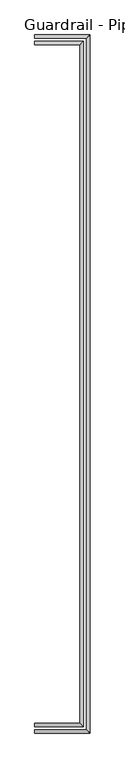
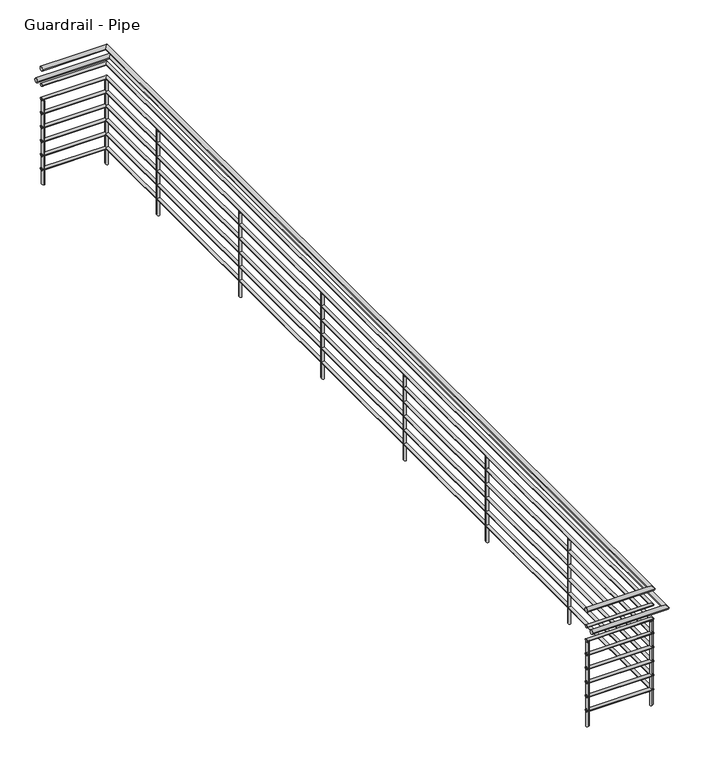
"""IFC4 building model written with IfcOpenShell, lengths in millimetres: railing geometry, Guardrail - Pipe."""

from ifc_helpers import new_model, si_unit, frame, origin, place, context, project, spatial, circle_curve, ellipse_curve, source, transform, mapped, element, save
from ifc_brep_helpers import plane_surface, cylinder_surface, advanced_brep


def guardrail_pipe_35cc9563(model_context):
    return source(origin(), model_context, "Body", "AdvancedBrep", [
        advanced_brep(
        [(13389.3313551, 21840.75, 4705.35), (13389.3313551, 21878.85, 4705.35), (13967.1813551, 21840.75, 4705.35), (13929.0813551, 21878.85, 4705.35), (13967.1813551, 29956.05, 4705.35), (13929.0813551, 29917.95, 4705.35), (13389.3313551, 29956.05, 4705.35), (13389.3313551, 29917.95, 4705.35)],
        [
            (0, 1, circle_curve(frame((13389.3313551, 21859.8, 4705.35), z_axis=(-1.0, 0.0, 0.0), x_axis=(0.0, 1.0, 0.0)), 19.05)),
            (1, 0, circle_curve(frame((13389.3313551, 21859.8, 4705.35), z_axis=(-1.0, 0.0, 0.0), x_axis=(0.0, 1.0, 0.0)), 19.05)),
            (0, 2),
            (2, 3, ellipse_curve(frame((13948.1313551, 21859.8, 4705.35), z_axis=(-0.7071067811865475, -0.7071067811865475, 0.0), x_axis=(-0.7071067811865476, 0.7071067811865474, 0.0)), 26.9407684, 19.05)),
            (3, 1),
            (3, 2, ellipse_curve(frame((13948.1313551, 21859.8, 4705.35), z_axis=(-0.7071067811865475, -0.7071067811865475, 0.0), x_axis=(-0.7071067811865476, 0.7071067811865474, 0.0)), 26.9407684, 19.05)),
            (2, 4),
            (4, 5, ellipse_curve(frame((13948.1313551, 29937.0, 4705.35), z_axis=(0.7071067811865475, -0.7071067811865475, 0.0), x_axis=(-0.7071067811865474, -0.7071067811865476, 0.0)), 26.9407684, 19.05)),
            (5, 3),
            (5, 4, ellipse_curve(frame((13948.1313551, 29937.0, 4705.35), z_axis=(0.7071067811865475, -0.7071067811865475, 0.0), x_axis=(-0.7071067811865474, -0.7071067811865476, 0.0)), 26.9407684, 19.05)),
            (6, 7, circle_curve(frame((13389.3313551, 29937.0, 4705.35), z_axis=(-1.0, 0.0, 0.0), x_axis=(0.0, -1.0, 0.0)), 19.05)),
            (7, 6, circle_curve(frame((13389.3313551, 29937.0, 4705.35), z_axis=(-1.0, 0.0, 0.0), x_axis=(0.0, -1.0, 0.0)), 19.05)),
            (4, 6),
            (7, 5),
        ],
        [
            plane_surface(frame((13389.3313551, 21859.8, 4724.4), z_axis=(-1.0, 0.0, 0.0), x_axis=(0.0, 1.0, 0.0))),
            cylinder_surface(frame((13389.3313551, 21859.8, 4705.35), z_axis=(-1.0, 0.0, 0.0), x_axis=(0.0, 1.0, 0.0)), 19.05),
            cylinder_surface(frame((13948.1313551, 21859.8, 4705.35), z_axis=(0.0, -1.0, 0.0), x_axis=(-1.0, 0.0, 0.0)), 19.05),
            plane_surface(frame((13389.3313551, 29937.0, 4724.4), z_axis=(-1.0, 0.0, 0.0), x_axis=(0.0, -1.0, 0.0))),
            cylinder_surface(frame((13948.1313551, 29937.0, 4705.35), z_axis=(1.0, 0.0, 0.0), x_axis=(0.0, -1.0, 0.0)), 19.05),
        ],
        [
            (0, [[1, 2]]),
            (1, [[-1, 3, 4, 5]]),
            (1, [[-2, -5, 6, -3]]),
            (2, [[-4, 7, 8, 9]]),
            (2, [[-6, -9, 10, -7]]),
            (3, [[11, 12]]),
            (4, [[-8, 13, -12, 14]]),
            (4, [[-10, -14, -11, -13]]),
        ],
    ),
        advanced_brep(
        [(13389.3313551, 21847.1, 4559.3), (13389.3313551, 21872.5, 4559.3), (13960.8313551, 21847.1, 4559.3), (13935.4313551, 21872.5, 4559.3), (13960.8313551, 29949.7, 4559.3), (13935.4313551, 29924.3, 4559.3), (13389.3313551, 29949.7, 4559.3), (13389.3313551, 29924.3, 4559.3)],
        [
            (0, 1, circle_curve(frame((13389.3313551, 21859.8, 4559.3), z_axis=(-1.0, 0.0, 0.0), x_axis=(0.0, 1.0, 0.0)), 12.7)),
            (1, 0, circle_curve(frame((13389.3313551, 21859.8, 4559.3), z_axis=(-1.0, 0.0, 0.0), x_axis=(0.0, 1.0, 0.0)), 12.7)),
            (0, 2),
            (2, 3, ellipse_curve(frame((13948.1313551, 21859.8, 4559.3), z_axis=(-0.7071067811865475, -0.7071067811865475, 0.0), x_axis=(-0.7071067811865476, 0.7071067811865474, 0.0)), 17.9605122, 12.7)),
            (3, 1),
            (3, 2, ellipse_curve(frame((13948.1313551, 21859.8, 4559.3), z_axis=(-0.7071067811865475, -0.7071067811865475, 0.0), x_axis=(-0.7071067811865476, 0.7071067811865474, 0.0)), 17.9605122, 12.7)),
            (2, 4),
            (4, 5, ellipse_curve(frame((13948.1313551, 29937.0, 4559.3), z_axis=(0.7071067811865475, -0.7071067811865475, 0.0), x_axis=(-0.7071067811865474, -0.7071067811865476, 0.0)), 17.9605122, 12.7)),
            (5, 3),
            (5, 4, ellipse_curve(frame((13948.1313551, 29937.0, 4559.3), z_axis=(0.7071067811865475, -0.7071067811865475, 0.0), x_axis=(-0.7071067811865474, -0.7071067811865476, 0.0)), 17.9605122, 12.7)),
            (6, 7, circle_curve(frame((13389.3313551, 29937.0, 4559.3), z_axis=(-1.0, 0.0, 0.0), x_axis=(0.0, -1.0, 0.0)), 12.7)),
            (7, 6, circle_curve(frame((13389.3313551, 29937.0, 4559.3), z_axis=(-1.0, 0.0, 0.0), x_axis=(0.0, -1.0, 0.0)), 12.7)),
            (4, 6),
            (7, 5),
        ],
        [
            plane_surface(frame((13389.3313551, 21859.8, 4572.0), z_axis=(-1.0, 0.0, 0.0), x_axis=(0.0, 1.0, 0.0))),
            cylinder_surface(frame((13389.3313551, 21859.8, 4559.3), z_axis=(-1.0, 0.0, 0.0), x_axis=(0.0, 1.0, 0.0)), 12.7),
            cylinder_surface(frame((13948.1313551, 21859.8, 4559.3), z_axis=(0.0, -1.0, 0.0), x_axis=(-1.0, 0.0, 0.0)), 12.7),
            plane_surface(frame((13389.3313551, 29937.0, 4572.0), z_axis=(-1.0, 0.0, 0.0), x_axis=(0.0, -1.0, 0.0))),
            cylinder_surface(frame((13948.1313551, 29937.0, 4559.3), z_axis=(1.0, 0.0, 0.0), x_axis=(0.0, -1.0, 0.0)), 12.7),
        ],
        [
            (0, [[1, 2]]),
            (1, [[-1, 3, 4, 5]]),
            (1, [[-2, -5, 6, -3]]),
            (2, [[-4, 7, 8, 9]]),
            (2, [[-6, -9, 10, -7]]),
            (3, [[11, 12]]),
            (4, [[-8, 13, -12, 14]]),
            (4, [[-10, -14, -11, -13]]),
        ],
    ),
        advanced_brep(
        [(13389.3313551, 21764.55, 4552.95), (13389.3313551, 21802.65, 4552.95), (14043.3813551, 21764.55, 4552.95), (14005.2813551, 21802.65, 4552.95), (14043.3813551, 30032.25, 4552.95), (14005.2813551, 29994.15, 4552.95), (13389.3313551, 30032.25, 4552.95), (13389.3313551, 29994.15, 4552.95)],
        [
            (0, 1, circle_curve(frame((13389.3313551, 21783.6, 4552.95), z_axis=(-1.0, 0.0, 0.0), x_axis=(0.0, 1.0, 0.0)), 19.05)),
            (1, 0, circle_curve(frame((13389.3313551, 21783.6, 4552.95), z_axis=(-1.0, 0.0, 0.0), x_axis=(0.0, 1.0, 0.0)), 19.05)),
            (0, 2),
            (2, 3, ellipse_curve(frame((14024.3313551, 21783.6, 4552.95), z_axis=(-0.7071067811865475, -0.7071067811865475, 0.0), x_axis=(-0.7071067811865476, 0.7071067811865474, 0.0)), 26.9407684, 19.05)),
            (3, 1),
            (3, 2, ellipse_curve(frame((14024.3313551, 21783.6, 4552.95), z_axis=(-0.7071067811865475, -0.7071067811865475, 0.0), x_axis=(-0.7071067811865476, 0.7071067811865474, 0.0)), 26.9407684, 19.05)),
            (2, 4),
            (4, 5, ellipse_curve(frame((14024.3313551, 30013.2, 4552.95), z_axis=(0.7071067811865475, -0.7071067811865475, 0.0), x_axis=(-0.7071067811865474, -0.7071067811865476, 0.0)), 26.9407684, 19.05)),
            (5, 3),
            (5, 4, ellipse_curve(frame((14024.3313551, 30013.2, 4552.95), z_axis=(0.7071067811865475, -0.7071067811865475, 0.0), x_axis=(-0.7071067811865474, -0.7071067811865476, 0.0)), 26.9407684, 19.05)),
            (6, 7, circle_curve(frame((13389.3313551, 30013.2, 4552.95), z_axis=(-1.0, 0.0, 0.0), x_axis=(0.0, -1.0, 0.0)), 19.05)),
            (7, 6, circle_curve(frame((13389.3313551, 30013.2, 4552.95), z_axis=(-1.0, 0.0, 0.0), x_axis=(0.0, -1.0, 0.0)), 19.05)),
            (4, 6),
            (7, 5),
        ],
        [
            plane_surface(frame((13389.3313551, 21783.6, 4572.0), z_axis=(-1.0, 0.0, 0.0), x_axis=(0.0, 1.0, 0.0))),
            cylinder_surface(frame((13389.3313551, 21783.6, 4552.95), z_axis=(-1.0, 0.0, 0.0), x_axis=(0.0, 1.0, 0.0)), 19.05),
            cylinder_surface(frame((14024.3313551, 21783.6, 4552.95), z_axis=(0.0, -1.0, 0.0), x_axis=(-1.0, 0.0, 0.0)), 19.05),
            plane_surface(frame((13389.3313551, 30013.2, 4572.0), z_axis=(-1.0, 0.0, 0.0), x_axis=(0.0, -1.0, 0.0))),
            cylinder_surface(frame((14024.3313551, 30013.2, 4552.95), z_axis=(1.0, 0.0, 0.0), x_axis=(0.0, -1.0, 0.0)), 19.05),
        ],
        [
            (0, [[1, 2]]),
            (1, [[-1, 3, 4, 5]]),
            (1, [[-2, -5, 6, -3]]),
            (2, [[-4, 7, 8, 9]]),
            (2, [[-6, -9, 10, -7]]),
            (3, [[11, 12]]),
            (4, [[-8, 13, -12, 14]]),
            (4, [[-10, -14, -11, -13]]),
        ],
    ),
        advanced_brep(
        [(13389.3313551, 21847.1, 4432.3), (13389.3313551, 21872.5, 4432.3), (13960.8313551, 21847.1, 4432.3), (13935.4313551, 21872.5, 4432.3), (13960.8313551, 29949.7, 4432.3), (13935.4313551, 29924.3, 4432.3), (13389.3313551, 29949.7, 4432.3), (13389.3313551, 29924.3, 4432.3)],
        [
            (0, 1, circle_curve(frame((13389.3313551, 21859.8, 4432.3), z_axis=(-1.0, 0.0, 0.0), x_axis=(0.0, 1.0, 0.0)), 12.7)),
            (1, 0, circle_curve(frame((13389.3313551, 21859.8, 4432.3), z_axis=(-1.0, 0.0, 0.0), x_axis=(0.0, 1.0, 0.0)), 12.7)),
            (0, 2),
            (2, 3, ellipse_curve(frame((13948.1313551, 21859.8, 4432.3), z_axis=(-0.7071067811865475, -0.7071067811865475, 0.0), x_axis=(-0.7071067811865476, 0.7071067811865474, 0.0)), 17.9605122, 12.7)),
            (3, 1),
            (3, 2, ellipse_curve(frame((13948.1313551, 21859.8, 4432.3), z_axis=(-0.7071067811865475, -0.7071067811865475, 0.0), x_axis=(-0.7071067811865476, 0.7071067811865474, 0.0)), 17.9605122, 12.7)),
            (2, 4),
            (4, 5, ellipse_curve(frame((13948.1313551, 29937.0, 4432.3), z_axis=(0.7071067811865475, -0.7071067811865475, 0.0), x_axis=(-0.7071067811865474, -0.7071067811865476, 0.0)), 17.9605122, 12.7)),
            (5, 3),
            (5, 4, ellipse_curve(frame((13948.1313551, 29937.0, 4432.3), z_axis=(0.7071067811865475, -0.7071067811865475, 0.0), x_axis=(-0.7071067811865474, -0.7071067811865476, 0.0)), 17.9605122, 12.7)),
            (6, 7, circle_curve(frame((13389.3313551, 29937.0, 4432.3), z_axis=(-1.0, 0.0, 0.0), x_axis=(0.0, -1.0, 0.0)), 12.7)),
            (7, 6, circle_curve(frame((13389.3313551, 29937.0, 4432.3), z_axis=(-1.0, 0.0, 0.0), x_axis=(0.0, -1.0, 0.0)), 12.7)),
            (4, 6),
            (7, 5),
        ],
        [
            plane_surface(frame((13389.3313551, 21859.8, 4445.0), z_axis=(-1.0, 0.0, 0.0), x_axis=(0.0, 1.0, 0.0))),
            cylinder_surface(frame((13389.3313551, 21859.8, 4432.3), z_axis=(-1.0, 0.0, 0.0), x_axis=(0.0, 1.0, 0.0)), 12.7),
            cylinder_surface(frame((13948.1313551, 21859.8, 4432.3), z_axis=(0.0, -1.0, 0.0), x_axis=(-1.0, 0.0, 0.0)), 12.7),
            plane_surface(frame((13389.3313551, 29937.0, 4445.0), z_axis=(-1.0, 0.0, 0.0), x_axis=(0.0, -1.0, 0.0))),
            cylinder_surface(frame((13948.1313551, 29937.0, 4432.3), z_axis=(1.0, 0.0, 0.0), x_axis=(0.0, -1.0, 0.0)), 12.7),
        ],
        [
            (0, [[1, 2]]),
            (1, [[-1, 3, 4, 5]]),
            (1, [[-2, -5, 6, -3]]),
            (2, [[-4, 7, 8, 9]]),
            (2, [[-6, -9, 10, -7]]),
            (3, [[11, 12]]),
            (4, [[-8, 13, -12, 14]]),
            (4, [[-10, -14, -11, -13]]),
        ],
    ),
        advanced_brep(
        [(13389.3313551, 21847.1, 4305.3), (13389.3313551, 21872.5, 4305.3), (13960.8313551, 21847.1, 4305.3), (13935.4313551, 21872.5, 4305.3), (13960.8313551, 29949.7, 4305.3), (13935.4313551, 29924.3, 4305.3), (13389.3313551, 29949.7, 4305.3), (13389.3313551, 29924.3, 4305.3)],
        [
            (0, 1, circle_curve(frame((13389.3313551, 21859.8, 4305.3), z_axis=(-1.0, 0.0, 0.0), x_axis=(0.0, 1.0, 0.0)), 12.7)),
            (1, 0, circle_curve(frame((13389.3313551, 21859.8, 4305.3), z_axis=(-1.0, 0.0, 0.0), x_axis=(0.0, 1.0, 0.0)), 12.7)),
            (0, 2),
            (2, 3, ellipse_curve(frame((13948.1313551, 21859.8, 4305.3), z_axis=(-0.7071067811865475, -0.7071067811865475, 0.0), x_axis=(-0.7071067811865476, 0.7071067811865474, 0.0)), 17.9605122, 12.7)),
            (3, 1),
            (3, 2, ellipse_curve(frame((13948.1313551, 21859.8, 4305.3), z_axis=(-0.7071067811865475, -0.7071067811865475, 0.0), x_axis=(-0.7071067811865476, 0.7071067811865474, 0.0)), 17.9605122, 12.7)),
            (2, 4),
            (4, 5, ellipse_curve(frame((13948.1313551, 29937.0, 4305.3), z_axis=(0.7071067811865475, -0.7071067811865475, 0.0), x_axis=(-0.7071067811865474, -0.7071067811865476, 0.0)), 17.9605122, 12.7)),
            (5, 3),
            (5, 4, ellipse_curve(frame((13948.1313551, 29937.0, 4305.3), z_axis=(0.7071067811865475, -0.7071067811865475, 0.0), x_axis=(-0.7071067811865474, -0.7071067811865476, 0.0)), 17.9605122, 12.7)),
            (6, 7, circle_curve(frame((13389.3313551, 29937.0, 4305.3), z_axis=(-1.0, 0.0, 0.0), x_axis=(0.0, -1.0, 0.0)), 12.7)),
            (7, 6, circle_curve(frame((13389.3313551, 29937.0, 4305.3), z_axis=(-1.0, 0.0, 0.0), x_axis=(0.0, -1.0, 0.0)), 12.7)),
            (4, 6),
            (7, 5),
        ],
        [
            plane_surface(frame((13389.3313551, 21859.8, 4318.0), z_axis=(-1.0, 0.0, 0.0), x_axis=(0.0, 1.0, 0.0))),
            cylinder_surface(frame((13389.3313551, 21859.8, 4305.3), z_axis=(-1.0, 0.0, 0.0), x_axis=(0.0, 1.0, 0.0)), 12.7),
            cylinder_surface(frame((13948.1313551, 21859.8, 4305.3), z_axis=(0.0, -1.0, 0.0), x_axis=(-1.0, 0.0, 0.0)), 12.7),
            plane_surface(frame((13389.3313551, 29937.0, 4318.0), z_axis=(-1.0, 0.0, 0.0), x_axis=(0.0, -1.0, 0.0))),
            cylinder_surface(frame((13948.1313551, 29937.0, 4305.3), z_axis=(1.0, 0.0, 0.0), x_axis=(0.0, -1.0, 0.0)), 12.7),
        ],
        [
            (0, [[1, 2]]),
            (1, [[-1, 3, 4, 5]]),
            (1, [[-2, -5, 6, -3]]),
            (2, [[-4, 7, 8, 9]]),
            (2, [[-6, -9, 10, -7]]),
            (3, [[11, 12]]),
            (4, [[-8, 13, -12, 14]]),
            (4, [[-10, -14, -11, -13]]),
        ],
    ),
        advanced_brep(
        [(13389.3313551, 21847.1, 4178.3), (13389.3313551, 21872.5, 4178.3), (13960.8313551, 21847.1, 4178.3), (13935.4313551, 21872.5, 4178.3), (13960.8313551, 29949.7, 4178.3), (13935.4313551, 29924.3, 4178.3), (13389.3313551, 29949.7, 4178.3), (13389.3313551, 29924.3, 4178.3)],
        [
            (0, 1, circle_curve(frame((13389.3313551, 21859.8, 4178.3), z_axis=(-1.0, 0.0, 0.0), x_axis=(0.0, 1.0, 0.0)), 12.7)),
            (1, 0, circle_curve(frame((13389.3313551, 21859.8, 4178.3), z_axis=(-1.0, 0.0, 0.0), x_axis=(0.0, 1.0, 0.0)), 12.7)),
            (0, 2),
            (2, 3, ellipse_curve(frame((13948.1313551, 21859.8, 4178.3), z_axis=(-0.7071067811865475, -0.7071067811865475, 0.0), x_axis=(-0.7071067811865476, 0.7071067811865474, 0.0)), 17.9605122, 12.7)),
            (3, 1),
            (3, 2, ellipse_curve(frame((13948.1313551, 21859.8, 4178.3), z_axis=(-0.7071067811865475, -0.7071067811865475, 0.0), x_axis=(-0.7071067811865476, 0.7071067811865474, 0.0)), 17.9605122, 12.7)),
            (2, 4),
            (4, 5, ellipse_curve(frame((13948.1313551, 29937.0, 4178.3), z_axis=(0.7071067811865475, -0.7071067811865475, 0.0), x_axis=(-0.7071067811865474, -0.7071067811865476, 0.0)), 17.9605122, 12.7)),
            (5, 3),
            (5, 4, ellipse_curve(frame((13948.1313551, 29937.0, 4178.3), z_axis=(0.7071067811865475, -0.7071067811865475, 0.0), x_axis=(-0.7071067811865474, -0.7071067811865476, 0.0)), 17.9605122, 12.7)),
            (6, 7, circle_curve(frame((13389.3313551, 29937.0, 4178.3), z_axis=(-1.0, 0.0, 0.0), x_axis=(0.0, -1.0, 0.0)), 12.7)),
            (7, 6, circle_curve(frame((13389.3313551, 29937.0, 4178.3), z_axis=(-1.0, 0.0, 0.0), x_axis=(0.0, -1.0, 0.0)), 12.7)),
            (4, 6),
            (7, 5),
        ],
        [
            plane_surface(frame((13389.3313551, 21859.8, 4191.0), z_axis=(-1.0, 0.0, 0.0), x_axis=(0.0, 1.0, 0.0))),
            cylinder_surface(frame((13389.3313551, 21859.8, 4178.3), z_axis=(-1.0, 0.0, 0.0), x_axis=(0.0, 1.0, 0.0)), 12.7),
            cylinder_surface(frame((13948.1313551, 21859.8, 4178.3), z_axis=(0.0, -1.0, 0.0), x_axis=(-1.0, 0.0, 0.0)), 12.7),
            plane_surface(frame((13389.3313551, 29937.0, 4191.0), z_axis=(-1.0, 0.0, 0.0), x_axis=(0.0, -1.0, 0.0))),
            cylinder_surface(frame((13948.1313551, 29937.0, 4178.3), z_axis=(1.0, 0.0, 0.0), x_axis=(0.0, -1.0, 0.0)), 12.7),
        ],
        [
            (0, [[1, 2]]),
            (1, [[-1, 3, 4, 5]]),
            (1, [[-2, -5, 6, -3]]),
            (2, [[-4, 7, 8, 9]]),
            (2, [[-6, -9, 10, -7]]),
            (3, [[11, 12]]),
            (4, [[-8, 13, -12, 14]]),
            (4, [[-10, -14, -11, -13]]),
        ],
    ),
        advanced_brep(
        [(13389.3313551, 21847.1, 4051.3), (13389.3313551, 21872.5, 4051.3), (13960.8313551, 21847.1, 4051.3), (13935.4313551, 21872.5, 4051.3), (13960.8313551, 29949.7, 4051.3), (13935.4313551, 29924.3, 4051.3), (13389.3313551, 29949.7, 4051.3), (13389.3313551, 29924.3, 4051.3)],
        [
            (0, 1, circle_curve(frame((13389.3313551, 21859.8, 4051.3), z_axis=(-1.0, 0.0, 0.0), x_axis=(0.0, 1.0, 0.0)), 12.7)),
            (1, 0, circle_curve(frame((13389.3313551, 21859.8, 4051.3), z_axis=(-1.0, 0.0, 0.0), x_axis=(0.0, 1.0, 0.0)), 12.7)),
            (0, 2),
            (2, 3, ellipse_curve(frame((13948.1313551, 21859.8, 4051.3), z_axis=(-0.7071067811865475, -0.7071067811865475, 0.0), x_axis=(-0.7071067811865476, 0.7071067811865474, 0.0)), 17.9605122, 12.7)),
            (3, 1),
            (3, 2, ellipse_curve(frame((13948.1313551, 21859.8, 4051.3), z_axis=(-0.7071067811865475, -0.7071067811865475, 0.0), x_axis=(-0.7071067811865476, 0.7071067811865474, 0.0)), 17.9605122, 12.7)),
            (2, 4),
            (4, 5, ellipse_curve(frame((13948.1313551, 29937.0, 4051.3), z_axis=(0.7071067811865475, -0.7071067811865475, 0.0), x_axis=(-0.7071067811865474, -0.7071067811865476, 0.0)), 17.9605122, 12.7)),
            (5, 3),
            (5, 4, ellipse_curve(frame((13948.1313551, 29937.0, 4051.3), z_axis=(0.7071067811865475, -0.7071067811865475, 0.0), x_axis=(-0.7071067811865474, -0.7071067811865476, 0.0)), 17.9605122, 12.7)),
            (6, 7, circle_curve(frame((13389.3313551, 29937.0, 4051.3), z_axis=(-1.0, 0.0, 0.0), x_axis=(0.0, -1.0, 0.0)), 12.7)),
            (7, 6, circle_curve(frame((13389.3313551, 29937.0, 4051.3), z_axis=(-1.0, 0.0, 0.0), x_axis=(0.0, -1.0, 0.0)), 12.7)),
            (4, 6),
            (7, 5),
        ],
        [
            plane_surface(frame((13389.3313551, 21859.8, 4064.0), z_axis=(-1.0, 0.0, 0.0), x_axis=(0.0, 1.0, 0.0))),
            cylinder_surface(frame((13389.3313551, 21859.8, 4051.3), z_axis=(-1.0, 0.0, 0.0), x_axis=(0.0, 1.0, 0.0)), 12.7),
            cylinder_surface(frame((13948.1313551, 21859.8, 4051.3), z_axis=(0.0, -1.0, 0.0), x_axis=(-1.0, 0.0, 0.0)), 12.7),
            plane_surface(frame((13389.3313551, 29937.0, 4064.0), z_axis=(-1.0, 0.0, 0.0), x_axis=(0.0, -1.0, 0.0))),
            cylinder_surface(frame((13948.1313551, 29937.0, 4051.3), z_axis=(1.0, 0.0, 0.0), x_axis=(0.0, -1.0, 0.0)), 12.7),
        ],
        [
            (0, [[1, 2]]),
            (1, [[-1, 3, 4, 5]]),
            (1, [[-2, -5, 6, -3]]),
            (2, [[-4, 7, 8, 9]]),
            (2, [[-6, -9, 10, -7]]),
            (3, [[11, 12]]),
            (4, [[-8, 13, -12, 14]]),
            (4, [[-10, -14, -11, -13]]),
        ],
    ),
        advanced_brep(
        [(13389.3313551, 21847.1, 3924.3), (13389.3313551, 21872.5, 3924.3), (13960.8313551, 21847.1, 3924.3), (13935.4313551, 21872.5, 3924.3), (13960.8313551, 29949.7, 3924.3), (13935.4313551, 29924.3, 3924.3), (13389.3313551, 29949.7, 3924.3), (13389.3313551, 29924.3, 3924.3)],
        [
            (0, 1, circle_curve(frame((13389.3313551, 21859.8, 3924.3), z_axis=(-1.0, 0.0, 0.0), x_axis=(0.0, 1.0, 0.0)), 12.7)),
            (1, 0, circle_curve(frame((13389.3313551, 21859.8, 3924.3), z_axis=(-1.0, 0.0, 0.0), x_axis=(0.0, 1.0, 0.0)), 12.7)),
            (0, 2),
            (2, 3, ellipse_curve(frame((13948.1313551, 21859.8, 3924.3), z_axis=(-0.7071067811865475, -0.7071067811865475, 0.0), x_axis=(-0.7071067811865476, 0.7071067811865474, 0.0)), 17.9605122, 12.7)),
            (3, 1),
            (3, 2, ellipse_curve(frame((13948.1313551, 21859.8, 3924.3), z_axis=(-0.7071067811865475, -0.7071067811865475, 0.0), x_axis=(-0.7071067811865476, 0.7071067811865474, 0.0)), 17.9605122, 12.7)),
            (2, 4),
            (4, 5, ellipse_curve(frame((13948.1313551, 29937.0, 3924.3), z_axis=(0.7071067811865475, -0.7071067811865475, 0.0), x_axis=(-0.7071067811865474, -0.7071067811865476, 0.0)), 17.9605122, 12.7)),
            (5, 3),
            (5, 4, ellipse_curve(frame((13948.1313551, 29937.0, 3924.3), z_axis=(0.7071067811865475, -0.7071067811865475, 0.0), x_axis=(-0.7071067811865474, -0.7071067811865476, 0.0)), 17.9605122, 12.7)),
            (6, 7, circle_curve(frame((13389.3313551, 29937.0, 3924.3), z_axis=(-1.0, 0.0, 0.0), x_axis=(0.0, -1.0, 0.0)), 12.7)),
            (7, 6, circle_curve(frame((13389.3313551, 29937.0, 3924.3), z_axis=(-1.0, 0.0, 0.0), x_axis=(0.0, -1.0, 0.0)), 12.7)),
            (4, 6),
            (7, 5),
        ],
        [
            plane_surface(frame((13389.3313551, 21859.8, 3937.0), z_axis=(-1.0, 0.0, 0.0), x_axis=(0.0, 1.0, 0.0))),
            cylinder_surface(frame((13389.3313551, 21859.8, 3924.3), z_axis=(-1.0, 0.0, 0.0), x_axis=(0.0, 1.0, 0.0)), 12.7),
            cylinder_surface(frame((13948.1313551, 21859.8, 3924.3), z_axis=(0.0, -1.0, 0.0), x_axis=(-1.0, 0.0, 0.0)), 12.7),
            plane_surface(frame((13389.3313551, 29937.0, 3937.0), z_axis=(-1.0, 0.0, 0.0), x_axis=(0.0, -1.0, 0.0))),
            cylinder_surface(frame((13948.1313551, 29937.0, 3924.3), z_axis=(1.0, 0.0, 0.0), x_axis=(0.0, -1.0, 0.0)), 12.7),
        ],
        [
            (0, [[1, 2]]),
            (1, [[-1, 3, 4, 5]]),
            (1, [[-2, -5, 6, -3]]),
            (2, [[-4, 7, 8, 9]]),
            (2, [[-6, -9, 10, -7]]),
            (3, [[11, 12]]),
            (4, [[-8, 13, -12, 14]]),
            (4, [[-10, -14, -11, -13]]),
        ],
    ),
        advanced_brep(
        [(13389.3313551, 21847.1, 3797.3), (13389.3313551, 21872.5, 3797.3), (13960.8313551, 21847.1, 3797.3), (13935.4313551, 21872.5, 3797.3), (13960.8313551, 29949.7, 3797.3), (13935.4313551, 29924.3, 3797.3), (13389.3313551, 29949.7, 3797.3), (13389.3313551, 29924.3, 3797.3)],
        [
            (0, 1, circle_curve(frame((13389.3313551, 21859.8, 3797.3), z_axis=(-1.0, 0.0, 0.0), x_axis=(0.0, 1.0, 0.0)), 12.7)),
            (1, 0, circle_curve(frame((13389.3313551, 21859.8, 3797.3), z_axis=(-1.0, 0.0, 0.0), x_axis=(0.0, 1.0, 0.0)), 12.7)),
            (0, 2),
            (2, 3, ellipse_curve(frame((13948.1313551, 21859.8, 3797.3), z_axis=(-0.7071067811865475, -0.7071067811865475, 0.0), x_axis=(-0.7071067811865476, 0.7071067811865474, 0.0)), 17.9605122, 12.7)),
            (3, 1),
            (3, 2, ellipse_curve(frame((13948.1313551, 21859.8, 3797.3), z_axis=(-0.7071067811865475, -0.7071067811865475, 0.0), x_axis=(-0.7071067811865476, 0.7071067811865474, 0.0)), 17.9605122, 12.7)),
            (2, 4),
            (4, 5, ellipse_curve(frame((13948.1313551, 29937.0, 3797.3), z_axis=(0.7071067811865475, -0.7071067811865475, 0.0), x_axis=(-0.7071067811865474, -0.7071067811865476, 0.0)), 17.9605122, 12.7)),
            (5, 3),
            (5, 4, ellipse_curve(frame((13948.1313551, 29937.0, 3797.3), z_axis=(0.7071067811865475, -0.7071067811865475, 0.0), x_axis=(-0.7071067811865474, -0.7071067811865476, 0.0)), 17.9605122, 12.7)),
            (6, 7, circle_curve(frame((13389.3313551, 29937.0, 3797.3), z_axis=(-1.0, 0.0, 0.0), x_axis=(0.0, -1.0, 0.0)), 12.7)),
            (7, 6, circle_curve(frame((13389.3313551, 29937.0, 3797.3), z_axis=(-1.0, 0.0, 0.0), x_axis=(0.0, -1.0, 0.0)), 12.7)),
            (4, 6),
            (7, 5),
        ],
        [
            plane_surface(frame((13389.3313551, 21859.8, 3810.0), z_axis=(-1.0, 0.0, 0.0), x_axis=(0.0, 1.0, 0.0))),
            cylinder_surface(frame((13389.3313551, 21859.8, 3797.3), z_axis=(-1.0, 0.0, 0.0), x_axis=(0.0, 1.0, 0.0)), 12.7),
            cylinder_surface(frame((13948.1313551, 21859.8, 3797.3), z_axis=(0.0, -1.0, 0.0), x_axis=(-1.0, 0.0, 0.0)), 12.7),
            plane_surface(frame((13389.3313551, 29937.0, 3810.0), z_axis=(-1.0, 0.0, 0.0), x_axis=(0.0, -1.0, 0.0))),
            cylinder_surface(frame((13948.1313551, 29937.0, 3797.3), z_axis=(1.0, 0.0, 0.0), x_axis=(0.0, -1.0, 0.0)), 12.7),
        ],
        [
            (0, [[1, 2]]),
            (1, [[-1, 3, 4, 5]]),
            (1, [[-2, -5, 6, -3]]),
            (2, [[-4, 7, 8, 9]]),
            (2, [[-6, -9, 10, -7]]),
            (3, [[11, 12]]),
            (4, [[-8, 13, -12, 14]]),
            (4, [[-10, -14, -11, -13]]),
        ],
    ),
        advanced_brep(
        [(13935.4313551, 29175.0, 4419.6), (13960.8313551, 29175.0, 4419.6), (13960.8313551, 29175.0, 3657.6), (13935.4313551, 29175.0, 3657.6)],
        [
            (0, 1, ellipse_curve(frame((13948.1313551, 29175.0, 4419.6), z_axis=(0.0, 0.5368579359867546, -0.8436726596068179), x_axis=(0.0, 0.843672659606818, 0.5368579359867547)), 15.0532317, 12.7)),
            (1, 2),
            (2, 3, ellipse_curve(frame((13948.1313551, 29175.0, 3657.6), z_axis=(0.0, -0.536857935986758, 0.8436726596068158), x_axis=(0.0, 0.8436726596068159, 0.536857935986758)), 15.0532317, 12.7)),
            (3, 0),
            (3, 2, ellipse_curve(frame((13948.1313551, 29175.0, 3657.6), z_axis=(0.0, -0.536857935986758, 0.8436726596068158), x_axis=(0.0, 0.8436726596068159, 0.536857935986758)), 15.0532317, 12.7)),
            (1, 0, ellipse_curve(frame((13948.1313551, 29175.0, 4419.6), z_axis=(0.0, 0.5368579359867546, -0.8436726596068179), x_axis=(0.0, 0.843672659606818, 0.5368579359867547)), 15.0532317, 12.7)),
        ],
        [
            cylinder_surface(frame((13948.1313551, 29175.0, 3429.0), z_axis=(0.0, 0.0, 1.0), x_axis=(1.0, 0.0, 0.0)), 12.7),
            plane_surface(frame((13973.5313551, 29200.4, 4435.7628938), z_axis=(0.0, -0.5368579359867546, 0.8436726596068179), x_axis=(-1.0, 0.0, 0.0))),
            plane_surface(frame((13973.5313551, 29149.6, 3641.4371062), z_axis=(0.0, 0.536857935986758, -0.8436726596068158), x_axis=(-1.0, 0.0, 0.0))),
        ],
        [
            (0, [[1, 2, 3, 4]]),
            (0, [[5, -2, 6, -4]]),
            (1, [[-6, -1]]),
            (2, [[-5, -3]]),
        ],
    ),
        advanced_brep(
        [(13935.4313551, 27955.8, 4419.6), (13960.8313551, 27955.8, 4419.6), (13960.8313551, 27955.8, 3657.6), (13935.4313551, 27955.8, 3657.6)],
        [
            (0, 1, ellipse_curve(frame((13948.1313551, 27955.8, 4419.6), z_axis=(0.0, 0.5368579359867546, -0.8436726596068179), x_axis=(0.0, 0.843672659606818, 0.5368579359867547)), 15.0532317, 12.7)),
            (1, 2),
            (2, 3, ellipse_curve(frame((13948.1313551, 27955.8, 3657.6), z_axis=(0.0, -0.536857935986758, 0.8436726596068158), x_axis=(0.0, 0.8436726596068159, 0.536857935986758)), 15.0532317, 12.7)),
            (3, 0),
            (3, 2, ellipse_curve(frame((13948.1313551, 27955.8, 3657.6), z_axis=(0.0, -0.536857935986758, 0.8436726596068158), x_axis=(0.0, 0.8436726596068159, 0.536857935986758)), 15.0532317, 12.7)),
            (1, 0, ellipse_curve(frame((13948.1313551, 27955.8, 4419.6), z_axis=(0.0, 0.5368579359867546, -0.8436726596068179), x_axis=(0.0, 0.843672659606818, 0.5368579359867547)), 15.0532317, 12.7)),
        ],
        [
            cylinder_surface(frame((13948.1313551, 27955.8, 3429.0), z_axis=(0.0, 0.0, 1.0), x_axis=(1.0, 0.0, 0.0)), 12.7),
            plane_surface(frame((13973.5313551, 27981.2, 4435.7628938), z_axis=(0.0, -0.5368579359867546, 0.8436726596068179), x_axis=(-1.0, 0.0, 0.0))),
            plane_surface(frame((13973.5313551, 27930.4, 3641.4371062), z_axis=(0.0, 0.536857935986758, -0.8436726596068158), x_axis=(-1.0, 0.0, 0.0))),
        ],
        [
            (0, [[1, 2, 3, 4]]),
            (0, [[5, -2, 6, -4]]),
            (1, [[-6, -1]]),
            (2, [[-5, -3]]),
        ],
    ),
        advanced_brep(
        [(13935.4313551, 26736.6, 4419.6), (13960.8313551, 26736.6, 4419.6), (13960.8313551, 26736.6, 3657.6), (13935.4313551, 26736.6, 3657.6)],
        [
            (0, 1, ellipse_curve(frame((13948.1313551, 26736.6, 4419.6), z_axis=(0.0, 0.5368579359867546, -0.8436726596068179), x_axis=(0.0, 0.843672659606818, 0.5368579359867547)), 15.0532317, 12.7)),
            (1, 2),
            (2, 3, ellipse_curve(frame((13948.1313551, 26736.6, 3657.6), z_axis=(0.0, -0.536857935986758, 0.8436726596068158), x_axis=(0.0, 0.8436726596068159, 0.536857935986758)), 15.0532317, 12.7)),
            (3, 0),
            (3, 2, ellipse_curve(frame((13948.1313551, 26736.6, 3657.6), z_axis=(0.0, -0.536857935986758, 0.8436726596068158), x_axis=(0.0, 0.8436726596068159, 0.536857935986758)), 15.0532317, 12.7)),
            (1, 0, ellipse_curve(frame((13948.1313551, 26736.6, 4419.6), z_axis=(0.0, 0.5368579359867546, -0.8436726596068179), x_axis=(0.0, 0.843672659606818, 0.5368579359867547)), 15.0532317, 12.7)),
        ],
        [
            cylinder_surface(frame((13948.1313551, 26736.6, 3429.0), z_axis=(0.0, 0.0, 1.0), x_axis=(1.0, 0.0, 0.0)), 12.7),
            plane_surface(frame((13973.5313551, 26762.0, 4435.7628938), z_axis=(0.0, -0.5368579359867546, 0.8436726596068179), x_axis=(-1.0, 0.0, 0.0))),
            plane_surface(frame((13973.5313551, 26711.2, 3641.4371062), z_axis=(0.0, 0.536857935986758, -0.8436726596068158), x_axis=(-1.0, 0.0, 0.0))),
        ],
        [
            (0, [[1, 2, 3, 4]]),
            (0, [[5, -2, 6, -4]]),
            (1, [[-6, -1]]),
            (2, [[-5, -3]]),
        ],
    ),
        advanced_brep(
        [(13935.4313551, 25517.4, 4419.6), (13960.8313551, 25517.4, 4419.6), (13960.8313551, 25517.4, 3657.6), (13935.4313551, 25517.4, 3657.6)],
        [
            (0, 1, ellipse_curve(frame((13948.1313551, 25517.4, 4419.6), z_axis=(0.0, 0.5368579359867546, -0.8436726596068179), x_axis=(0.0, 0.843672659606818, 0.5368579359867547)), 15.0532317, 12.7)),
            (1, 2),
            (2, 3, ellipse_curve(frame((13948.1313551, 25517.4, 3657.6), z_axis=(0.0, -0.536857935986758, 0.8436726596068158), x_axis=(0.0, 0.8436726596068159, 0.536857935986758)), 15.0532317, 12.7)),
            (3, 0),
            (3, 2, ellipse_curve(frame((13948.1313551, 25517.4, 3657.6), z_axis=(0.0, -0.536857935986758, 0.8436726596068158), x_axis=(0.0, 0.8436726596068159, 0.536857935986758)), 15.0532317, 12.7)),
            (1, 0, ellipse_curve(frame((13948.1313551, 25517.4, 4419.6), z_axis=(0.0, 0.5368579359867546, -0.8436726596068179), x_axis=(0.0, 0.843672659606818, 0.5368579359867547)), 15.0532317, 12.7)),
        ],
        [
            cylinder_surface(frame((13948.1313551, 25517.4, 3429.0), z_axis=(0.0, 0.0, 1.0), x_axis=(1.0, 0.0, 0.0)), 12.7),
            plane_surface(frame((13973.5313551, 25542.8, 4435.7628938), z_axis=(0.0, -0.5368579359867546, 0.8436726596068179), x_axis=(-1.0, 0.0, 0.0))),
            plane_surface(frame((13973.5313551, 25492.0, 3641.4371062), z_axis=(0.0, 0.536857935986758, -0.8436726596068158), x_axis=(-1.0, 0.0, 0.0))),
        ],
        [
            (0, [[1, 2, 3, 4]]),
            (0, [[5, -2, 6, -4]]),
            (1, [[-6, -1]]),
            (2, [[-5, -3]]),
        ],
    ),
        advanced_brep(
        [(13935.4313551, 24298.2, 4419.6), (13960.8313551, 24298.2, 4419.6), (13960.8313551, 24298.2, 3657.6), (13935.4313551, 24298.2, 3657.6)],
        [
            (0, 1, ellipse_curve(frame((13948.1313551, 24298.2, 4419.6), z_axis=(0.0, 0.5368579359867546, -0.8436726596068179), x_axis=(0.0, 0.843672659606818, 0.5368579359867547)), 15.0532317, 12.7)),
            (1, 2),
            (2, 3, ellipse_curve(frame((13948.1313551, 24298.2, 3657.6), z_axis=(0.0, -0.536857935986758, 0.8436726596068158), x_axis=(0.0, 0.8436726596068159, 0.536857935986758)), 15.0532317, 12.7)),
            (3, 0),
            (3, 2, ellipse_curve(frame((13948.1313551, 24298.2, 3657.6), z_axis=(0.0, -0.536857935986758, 0.8436726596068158), x_axis=(0.0, 0.8436726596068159, 0.536857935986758)), 15.0532317, 12.7)),
            (1, 0, ellipse_curve(frame((13948.1313551, 24298.2, 4419.6), z_axis=(0.0, 0.5368579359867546, -0.8436726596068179), x_axis=(0.0, 0.843672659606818, 0.5368579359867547)), 15.0532317, 12.7)),
        ],
        [
            cylinder_surface(frame((13948.1313551, 24298.2, 3429.0), z_axis=(0.0, 0.0, 1.0), x_axis=(1.0, 0.0, 0.0)), 12.7),
            plane_surface(frame((13973.5313551, 24323.6, 4435.7628938), z_axis=(0.0, -0.5368579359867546, 0.8436726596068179), x_axis=(-1.0, 0.0, 0.0))),
            plane_surface(frame((13973.5313551, 24272.8, 3641.4371062), z_axis=(0.0, 0.536857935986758, -0.8436726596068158), x_axis=(-1.0, 0.0, 0.0))),
        ],
        [
            (0, [[1, 2, 3, 4]]),
            (0, [[5, -2, 6, -4]]),
            (1, [[-6, -1]]),
            (2, [[-5, -3]]),
        ],
    ),
        advanced_brep(
        [(13935.4313551, 23079.0, 4419.6), (13960.8313551, 23079.0, 4419.6), (13960.8313551, 23079.0, 3657.6), (13935.4313551, 23079.0, 3657.6)],
        [
            (0, 1, ellipse_curve(frame((13948.1313551, 23079.0, 4419.6), z_axis=(0.0, 0.5368579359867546, -0.8436726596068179), x_axis=(0.0, 0.843672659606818, 0.5368579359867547)), 15.0532317, 12.7)),
            (1, 2),
            (2, 3, ellipse_curve(frame((13948.1313551, 23079.0, 3657.6), z_axis=(0.0, -0.536857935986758, 0.8436726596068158), x_axis=(0.0, 0.8436726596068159, 0.536857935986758)), 15.0532317, 12.7)),
            (3, 0),
            (3, 2, ellipse_curve(frame((13948.1313551, 23079.0, 3657.6), z_axis=(0.0, -0.536857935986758, 0.8436726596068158), x_axis=(0.0, 0.8436726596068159, 0.536857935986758)), 15.0532317, 12.7)),
            (1, 0, ellipse_curve(frame((13948.1313551, 23079.0, 4419.6), z_axis=(0.0, 0.5368579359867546, -0.8436726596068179), x_axis=(0.0, 0.843672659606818, 0.5368579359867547)), 15.0532317, 12.7)),
        ],
        [
            cylinder_surface(frame((13948.1313551, 23079.0, 3429.0), z_axis=(0.0, 0.0, 1.0), x_axis=(1.0, 0.0, 0.0)), 12.7),
            plane_surface(frame((13973.5313551, 23104.4, 4435.7628938), z_axis=(0.0, -0.5368579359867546, 0.8436726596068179), x_axis=(-1.0, 0.0, 0.0))),
            plane_surface(frame((13973.5313551, 23053.6, 3641.4371062), z_axis=(0.0, 0.536857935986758, -0.8436726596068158), x_axis=(-1.0, 0.0, 0.0))),
        ],
        [
            (0, [[1, 2, 3, 4]]),
            (0, [[5, -2, 6, -4]]),
            (1, [[-6, -1]]),
            (2, [[-5, -3]]),
        ],
    ),
        advanced_brep(
        [(13935.4313551, 29937.0, 4419.6), (13960.8313551, 29937.0, 4419.6), (13960.8313551, 29937.0, 3657.6), (13935.4313551, 29937.0, 3657.6)],
        [
            (0, 1, ellipse_curve(frame((13948.1313551, 29937.0, 4419.6), z_axis=(0.0, 0.5368579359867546, -0.8436726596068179), x_axis=(0.0, 0.843672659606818, 0.5368579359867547)), 15.0532317, 12.7)),
            (1, 2),
            (2, 3, ellipse_curve(frame((13948.1313551, 29937.0, 3657.6), z_axis=(0.0, -0.536857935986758, 0.8436726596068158), x_axis=(0.0, 0.8436726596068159, 0.536857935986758)), 15.0532317, 12.7)),
            (3, 0),
            (3, 2, ellipse_curve(frame((13948.1313551, 29937.0, 3657.6), z_axis=(0.0, -0.536857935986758, 0.8436726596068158), x_axis=(0.0, 0.8436726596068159, 0.536857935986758)), 15.0532317, 12.7)),
            (1, 0, ellipse_curve(frame((13948.1313551, 29937.0, 4419.6), z_axis=(0.0, 0.5368579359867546, -0.8436726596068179), x_axis=(0.0, 0.843672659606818, 0.5368579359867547)), 15.0532317, 12.7)),
        ],
        [
            cylinder_surface(frame((13948.1313551, 29937.0, 3429.0), z_axis=(0.0, 0.0, 1.0), x_axis=(1.0, 0.0, 0.0)), 12.7),
            plane_surface(frame((13973.5313551, 29962.4, 4435.7628938), z_axis=(0.0, -0.5368579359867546, 0.8436726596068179), x_axis=(-1.0, 0.0, 0.0))),
            plane_surface(frame((13973.5313551, 29911.6, 3641.4371062), z_axis=(0.0, 0.536857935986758, -0.8436726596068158), x_axis=(-1.0, 0.0, 0.0))),
        ],
        [
            (0, [[1, 2, 3, 4]]),
            (0, [[5, -2, 6, -4]]),
            (1, [[-6, -1]]),
            (2, [[-5, -3]]),
        ],
    ),
        advanced_brep(
        [(13948.1313551, 21872.5, 4419.6), (13948.1313551, 21847.1, 4419.6), (13948.1313551, 21847.1, 3657.6), (13948.1313551, 21872.5, 3657.6)],
        [
            (0, 1, ellipse_curve(frame((13948.1313551, 21859.8, 4419.6), z_axis=(0.5368579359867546, 0.0, -0.8436726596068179), x_axis=(0.843672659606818, 0.0, 0.5368579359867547)), 15.0532317, 12.7)),
            (1, 2),
            (2, 3, ellipse_curve(frame((13948.1313551, 21859.8, 3657.6), z_axis=(-0.536857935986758, 0.0, 0.8436726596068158), x_axis=(0.8436726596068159, 0.0, 0.536857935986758)), 15.0532317, 12.7)),
            (3, 0),
            (3, 2, ellipse_curve(frame((13948.1313551, 21859.8, 3657.6), z_axis=(-0.536857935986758, 0.0, 0.8436726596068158), x_axis=(0.8436726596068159, 0.0, 0.536857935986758)), 15.0532317, 12.7)),
            (1, 0, ellipse_curve(frame((13948.1313551, 21859.8, 4419.6), z_axis=(0.5368579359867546, 0.0, -0.8436726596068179), x_axis=(0.843672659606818, 0.0, 0.5368579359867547)), 15.0532317, 12.7)),
        ],
        [
            cylinder_surface(frame((13948.1313551, 21859.8, 3429.0), z_axis=(0.0, 0.0, 1.0), x_axis=(0.0, -1.0, 0.0)), 12.7),
            plane_surface(frame((13973.5313551, 21834.4, 4435.7628938), z_axis=(-0.5368579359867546, 0.0, 0.8436726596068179), x_axis=(0.0, 1.0, 0.0))),
            plane_surface(frame((13922.7313551, 21834.4, 3641.4371062), z_axis=(0.536857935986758, 0.0, -0.8436726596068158), x_axis=(0.0, 1.0, 0.0))),
        ],
        [
            (0, [[1, 2, 3, 4]]),
            (0, [[5, -2, 6, -4]]),
            (1, [[-6, -1]]),
            (2, [[-5, -3]]),
        ],
    ),
        advanced_brep(
        [(13402.0313551, 29924.3, 4419.6), (13402.0313551, 29949.7, 4419.6), (13402.0313551, 29949.7, 3657.6), (13402.0313551, 29924.3, 3657.6)],
        [
            (0, 1, ellipse_curve(frame((13402.0313551, 29937.0, 4419.6), z_axis=(-0.5368579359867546, 0.0, -0.8436726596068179), x_axis=(-0.843672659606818, 0.0, 0.5368579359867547)), 15.0532317, 12.7)),
            (1, 2),
            (2, 3, ellipse_curve(frame((13402.0313551, 29937.0, 3657.6), z_axis=(0.536857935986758, 0.0, 0.8436726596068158), x_axis=(-0.8436726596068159, 0.0, 0.536857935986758)), 15.0532317, 12.7)),
            (3, 0),
            (3, 2, ellipse_curve(frame((13402.0313551, 29937.0, 3657.6), z_axis=(0.536857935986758, 0.0, 0.8436726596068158), x_axis=(-0.8436726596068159, 0.0, 0.536857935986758)), 15.0532317, 12.7)),
            (1, 0, ellipse_curve(frame((13402.0313551, 29937.0, 4419.6), z_axis=(-0.5368579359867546, 0.0, -0.8436726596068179), x_axis=(-0.843672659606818, 0.0, 0.5368579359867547)), 15.0532317, 12.7)),
        ],
        [
            cylinder_surface(frame((13402.0313551, 29937.0, 3429.0), z_axis=(0.0, 0.0, 1.0), x_axis=(0.0, 1.0, 0.0)), 12.7),
            plane_surface(frame((13376.6313551, 29962.4, 4435.7628938), z_axis=(0.5368579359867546, 0.0, 0.8436726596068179), x_axis=(0.0, -1.0, 0.0))),
            plane_surface(frame((13427.4313551, 29962.4, 3641.4371062), z_axis=(-0.536857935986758, 0.0, -0.8436726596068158), x_axis=(0.0, -1.0, 0.0))),
        ],
        [
            (0, [[1, 2, 3, 4]]),
            (0, [[5, -2, 6, -4]]),
            (1, [[-6, -1]]),
            (2, [[-5, -3]]),
        ],
    ),
        advanced_brep(
        [(13402.0313551, 21872.5, 4419.6), (13402.0313551, 21847.1, 4419.6), (13402.0313551, 21847.1, 3657.6), (13402.0313551, 21872.5, 3657.6)],
        [
            (0, 1, ellipse_curve(frame((13402.0313551, 21859.8, 4419.6), z_axis=(0.5368579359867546, 0.0, -0.8436726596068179), x_axis=(0.843672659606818, 0.0, 0.5368579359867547)), 15.0532317, 12.7)),
            (1, 2),
            (2, 3, ellipse_curve(frame((13402.0313551, 21859.8, 3657.6), z_axis=(-0.536857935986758, 0.0, 0.8436726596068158), x_axis=(0.8436726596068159, 0.0, 0.536857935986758)), 15.0532317, 12.7)),
            (3, 0),
            (3, 2, ellipse_curve(frame((13402.0313551, 21859.8, 3657.6), z_axis=(-0.536857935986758, 0.0, 0.8436726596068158), x_axis=(0.8436726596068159, 0.0, 0.536857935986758)), 15.0532317, 12.7)),
            (1, 0, ellipse_curve(frame((13402.0313551, 21859.8, 4419.6), z_axis=(0.5368579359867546, 0.0, -0.8436726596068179), x_axis=(0.843672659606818, 0.0, 0.5368579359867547)), 15.0532317, 12.7)),
        ],
        [
            cylinder_surface(frame((13402.0313551, 21859.8, 3429.0), z_axis=(0.0, 0.0, 1.0), x_axis=(0.0, -1.0, 0.0)), 12.7),
            plane_surface(frame((13427.4313551, 21834.4, 4435.7628938), z_axis=(-0.5368579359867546, 0.0, 0.8436726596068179), x_axis=(0.0, 1.0, 0.0))),
            plane_surface(frame((13376.6313551, 21834.4, 3641.4371062), z_axis=(0.536857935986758, 0.0, -0.8436726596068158), x_axis=(0.0, 1.0, 0.0))),
        ],
        [
            (0, [[1, 2, 3, 4]]),
            (0, [[5, -2, 6, -4]]),
            (1, [[-6, -1]]),
            (2, [[-5, -3]]),
        ],
    ),
    ])


if __name__ == "__main__":
    model = new_model("IFC4")
    model_context = context("Model", 3, world=origin())
    ifc_project = project(units=[si_unit("LENGTHUNIT", "METRE", prefix="MILLI")], contexts=[model_context])
    site = spatial("IfcSite", under=ifc_project)
    building = spatial("IfcBuilding", under=site)
    placement = place(None, origin())
    guardrail_pipe_shape = guardrail_pipe_35cc9563(model_context)
    element("IfcRailing", 1, ObjectType="Guardrail - Pipe", at=placement, inside=building, context=model_context, shape_type="MappedRepresentation", body=[
        mapped(guardrail_pipe_shape, transform((0.0, 0.0, 0.0), x_axis=(1.0, 0.0, 0.0), y_axis=(0.0, 1.0, 0.0), z_axis=(0.0, 0.0, 1.0))),
    ])
    save(model, "model.ifc")
